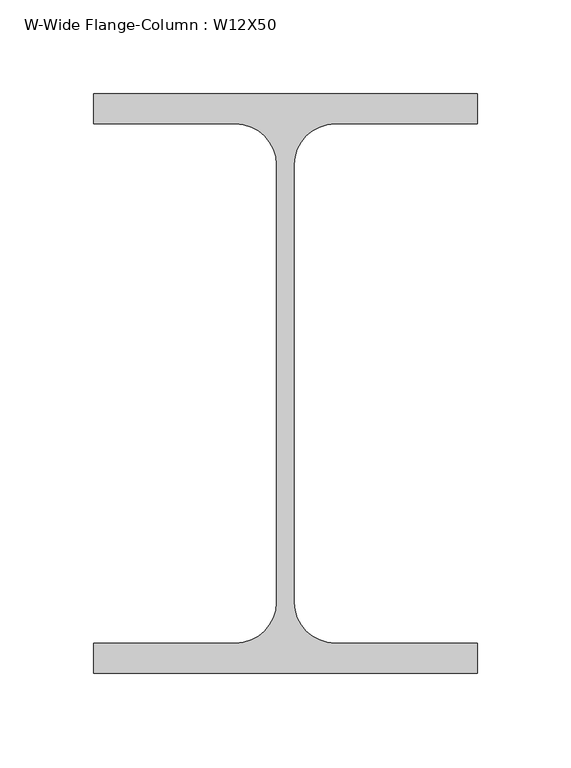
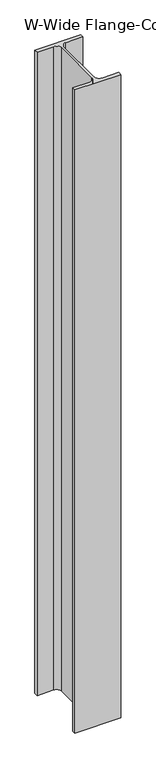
"""IFC4 building model written with IfcOpenShell, lengths in millimetres: column geometry, W-Wide Flange-Column : W12X50."""

from ifc_helpers import new_model, si_unit, point, frame_2d, origin, origin_with_axes, place, context, project, spatial, polyline, circle_curve, trimmed, segment, composite_curve, outline, extrude, source, transform, mapped, element, save


def w_wide_flange_column_w12x50_748911cc(model_context):
    return source(origin(), model_context, "Body", "SweptSolid", [
        extrude(outline(composite_curve([segment(polyline([(102.616, 154.94), (102.616, 138.684), (26.543, 138.684)]), True, "CONTINUOUS"), segment(trimmed(circle_curve(frame_2d((26.543, 116.84)), 21.844), [point((26.543, 138.684))], [point((4.699, 116.84))], True, "CARTESIAN"), True, "CONTINUOUS"), segment(polyline([(4.699, 116.84), (4.699, -116.84)]), True, "CONTINUOUS"), segment(trimmed(circle_curve(frame_2d((26.543, -116.84)), 21.844), [point((4.699, -116.84))], [point((26.543, -138.684))], True, "CARTESIAN"), True, "CONTINUOUS"), segment(polyline([(26.543, -138.684), (102.616, -138.684), (102.616, -154.94), (-102.616, -154.94), (-102.616, -138.684), (-26.543, -138.684)]), True, "CONTINUOUS"), segment(trimmed(circle_curve(frame_2d((-26.543, -116.84)), 21.844), [point((-26.543, -138.684))], [point((-4.699, -116.84))], True, "CARTESIAN"), True, "CONTINUOUS"), segment(polyline([(-4.699, -116.84), (-4.699, 116.84)]), True, "CONTINUOUS"), segment(trimmed(circle_curve(frame_2d((-26.543, 116.84)), 21.844), [point((-4.699, 116.84))], [point((-26.543, 138.684))], True, "CARTESIAN"), True, "CONTINUOUS"), segment(polyline([(-26.543, 138.684), (-102.616, 138.684), (-102.616, 154.94), (102.616, 154.94)]), True, "CONTINUOUS")], self_intersect=False)), origin_with_axes(), (0.0, 0.0, 1.0), 3048.0),
    ])


if __name__ == "__main__":
    model = new_model("IFC4")
    model_context = context("Model", 3, world=origin())
    ifc_project = project(units=[si_unit("LENGTHUNIT", "METRE", prefix="MILLI")], contexts=[model_context])
    site = spatial("IfcSite", under=ifc_project)
    building = spatial("IfcBuilding", under=site)
    placement = place(None, origin())
    w_wide_flange_column_w12x50_shape = w_wide_flange_column_w12x50_748911cc(model_context)
    element("IfcColumn", 1, ObjectType="W-Wide Flange-Column : W12X50", at=placement, inside=building, context=model_context, shape_type="MappedRepresentation", body=[
        mapped(w_wide_flange_column_w12x50_shape, transform((0.0, 0.0, 0.0), x_axis=(1.0, 0.0, 0.0), y_axis=(0.0, 1.0, 0.0), z_axis=(0.0, 0.0, 1.0))),
    ])
    save(model, "model.ifc")
